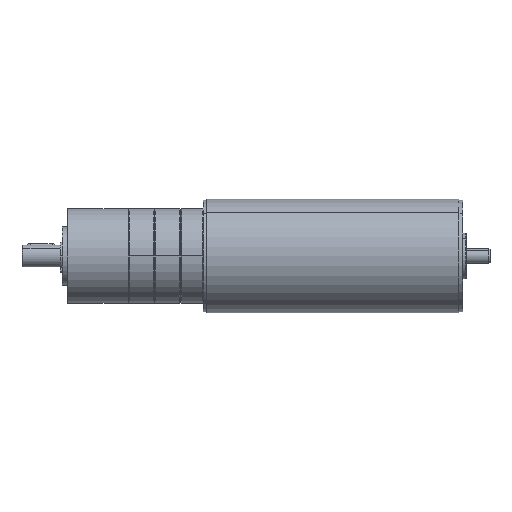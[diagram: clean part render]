
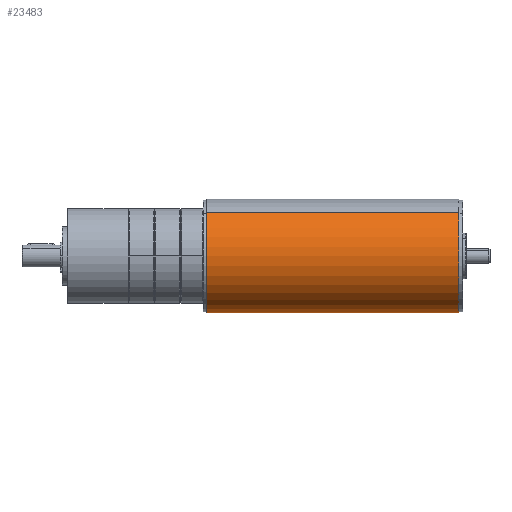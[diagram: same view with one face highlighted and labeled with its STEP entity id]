
A CAD part, front view. The second image highlights one B-rep face of the part: STEP entity #23483.
In plain terms, the highlighted cylindrical face has radius 31 mm (diameter 62 mm), a partial arc.
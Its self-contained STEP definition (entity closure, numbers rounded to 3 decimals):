
#584 = DIRECTION ( 'NONE',  ( -1., 0., 0. ) ) ;
#1269 = ORIENTED_EDGE ( 'NONE', *, *, #10038, .T. ) ;
#1885 = CARTESIAN_POINT ( 'NONE',  ( 31., 0., 35.6 ) ) ;
#3837 = VERTEX_POINT ( 'NONE', #26095 ) ;
#5574 = EDGE_CURVE ( 'NONE', #22587, #3837, #8734, .T. ) ;
#7376 = AXIS2_PLACEMENT_3D ( 'NONE', #25669, #19547, #15478 ) ;
#8317 = DIRECTION ( 'NONE',  ( 0., 0., -1. ) ) ;
#8734 = LINE ( 'NONE', #13971, #19124 ) ;
#9189 = ORIENTED_EDGE ( 'NONE', *, *, #15780, .F. ) ;
#10021 = CIRCLE ( 'NONE', #24698, 31. ) ;
#10038 = EDGE_CURVE ( 'NONE', #3837, #24172, #10021, .T. ) ;
#11568 = CARTESIAN_POINT ( 'NONE',  ( -31., 0., -0.5 ) ) ;
#11815 = VERTEX_POINT ( 'NONE', #23503 ) ;
#12593 = LINE ( 'NONE', #1885, #18150 ) ;
#12953 = DIRECTION ( 'NONE',  ( 0., 0., 1. ) ) ;
#13971 = CARTESIAN_POINT ( 'NONE',  ( -31., 0., 35.6 ) ) ;
#14168 = CIRCLE ( 'NONE', #20740, 31. ) ;
#14237 = EDGE_LOOP ( 'NONE', ( #9189, #21164, #25488, #1269 ) ) ;
#15478 = DIRECTION ( 'NONE',  ( -1., 0., 0. ) ) ;
#15780 = EDGE_CURVE ( 'NONE', #11815, #24172, #12593, .T. ) ;
#16052 = DIRECTION ( 'NONE',  ( 0., 0., -1. ) ) ;
#18150 = VECTOR ( 'NONE', #20471, 1000. ) ;
#19124 = VECTOR ( 'NONE', #16052, 1000. ) ;
#19547 = DIRECTION ( 'NONE',  ( 0., 0., -1. ) ) ;
#20471 = DIRECTION ( 'NONE',  ( 0., 0., -1. ) ) ;
#20740 = AXIS2_PLACEMENT_3D ( 'NONE', #20773, #8317, #22852 ) ;
#20773 = CARTESIAN_POINT ( 'NONE',  ( 0., 0., -0.5 ) ) ;
#20996 = CYLINDRICAL_SURFACE ( 'NONE', #7376, 31. ) ;
#21164 = ORIENTED_EDGE ( 'NONE', *, *, #23865, .T. ) ;
#22587 = VERTEX_POINT ( 'NONE', #11568 ) ;
#22852 = DIRECTION ( 'NONE',  ( -1., 0., 0. ) ) ;
#23483 = ADVANCED_FACE ( 'NONE', ( #23580 ), #20996, .T. ) ;
#23503 = CARTESIAN_POINT ( 'NONE',  ( 31., 0., -0.5 ) ) ;
#23580 = FACE_OUTER_BOUND ( 'NONE', #14237, .T. ) ;
#23865 = EDGE_CURVE ( 'NONE', #11815, #22587, #14168, .T. ) ;
#24172 = VERTEX_POINT ( 'NONE', #26093 ) ;
#24698 = AXIS2_PLACEMENT_3D ( 'NONE', #25323, #12953, #584 ) ;
#25323 = CARTESIAN_POINT ( 'NONE',  ( 0., 0., -138.5 ) ) ;
#25488 = ORIENTED_EDGE ( 'NONE', *, *, #5574, .T. ) ;
#25669 = CARTESIAN_POINT ( 'NONE',  ( 0., 0., 35.6 ) ) ;
#26093 = CARTESIAN_POINT ( 'NONE',  ( 31., 0., -138.5 ) ) ;
#26095 = CARTESIAN_POINT ( 'NONE',  ( -31., 0., -138.5 ) ) ;
